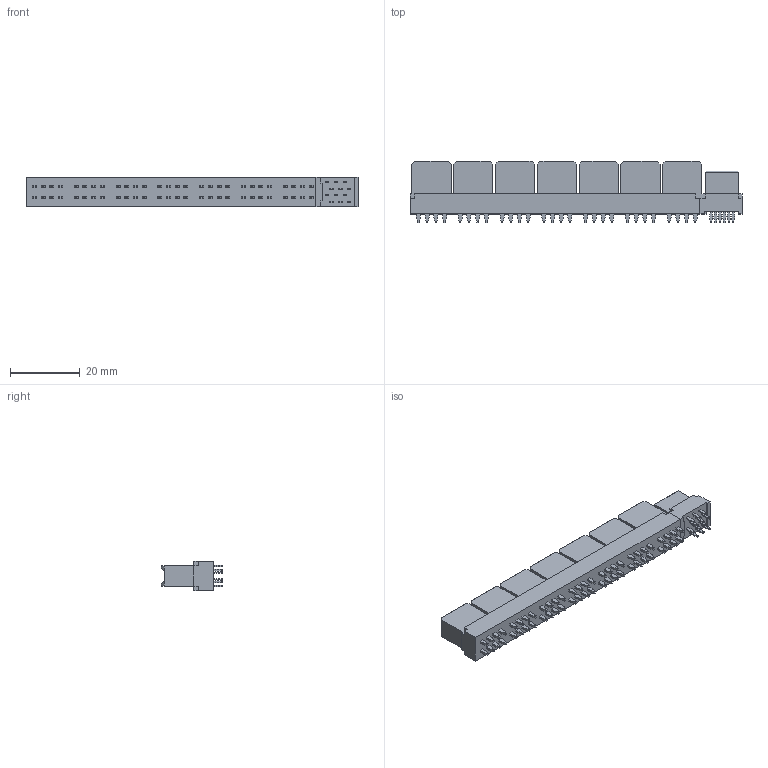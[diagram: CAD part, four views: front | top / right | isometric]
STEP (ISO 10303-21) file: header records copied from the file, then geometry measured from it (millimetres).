
FILE_DESCRIPTION((''),'2;1');
FILE_NAME('461141413','2018-02-23T',('ksrinivasara'),(''),'PRO/ENGINEER BY PARAMETRIC TECHNOLOGY CORPORATION, 2012310','PRO/ENGINEER BY PARAMETRIC TECHNOLOGY CORPORATION, 2012310','');
FILE_SCHEMA(('CONFIG_CONTROL_DESIGN'));
Length unit declared in the file: millimetre
Products named in the file (1): 461141413
Bounding box: 95.34 x 17.79 x 8.33 mm (x, y, z)
Volume: 7103.1 mm3; surface area: 8351.8 mm2
Topology: 1 solids, 1 shells, 1178 faces, 3254 edges, 2190 vertices
Faces by surface type: plane 976, cylinder 202
Entity records: 37117 total; most frequent: CARTESIAN_POINT 6487, ORIENTED_EDGE 6236, DIRECTION 6152, EDGE_CURVE 3118, VECTOR 2714, LINE 2714, VERTEX_POINT 2054, AXIS2_PLACEMENT_3D 1719
